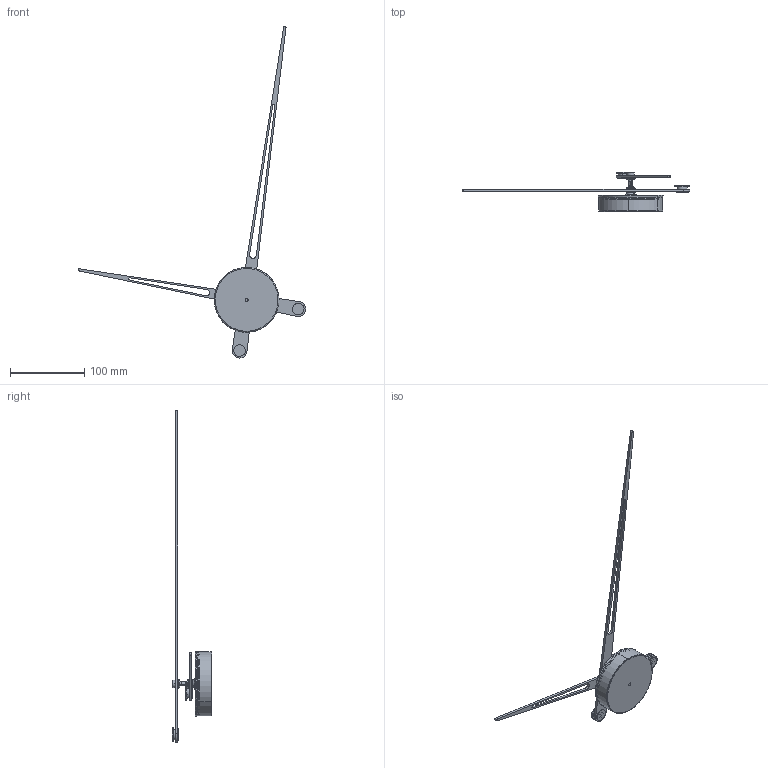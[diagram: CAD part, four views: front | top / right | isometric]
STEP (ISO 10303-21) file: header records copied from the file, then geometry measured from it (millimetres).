
FILE_DESCRIPTION (( 'STEP AP214' ), '1' );
FILE_NAME ('Axioma_g_74.STEP', '2021-09-06T08:15:04', ( '' ), ( '' ), 'SwSTEP 2.0', 'SolidWorks 2016', '' );
FILE_SCHEMA (( 'AUTOMOTIVE_DESIGN' ));
Length unit declared in the file: millimetre
Products named in the file (18): Caja_acero_inox; MECANISMO_SINGULAR; Pieza_caja_superior; Tuerca 1.5; tuerca_7.3_1.5; Aguja_horaria_calada_nogal_74; Cierre_contrapeso; Aguja_minutera_calada_nogal_74; Contrapeso_pequeño; Embellecedor; Pieza2; aguja_minutera_calada_nogal_74; Axioma_g_74; aguja_horaria_calada_nogal_74; Arandela_2; Inserto horaria; Pieza_caja_inferior; Esparrago
Assembly tree (20 placements, depth 3):
  Axioma_g_74
    Caja_acero_inox
      MECANISMO_SINGULAR
      Pieza_caja_inferior
      Pieza_caja_superior
      Pieza2
    Aguja_horaria_calada_nogal_74
      aguja_horaria_calada_nogal_74
      Inserto horaria
      tuerca_7.3_1.5
      Arandela_2
      Contrapeso_pequeño
      Cierre_contrapeso
    Aguja_minutera_calada_nogal_74
      aguja_minutera_calada_nogal_74
      Contrapeso_pequeño
      Cierre_contrapeso
      Arandela_2
      Embellecedor
      Esparrago
      Tuerca 1.5
Bounding box: 305.84 x 53.38 x 446.73 mm (x, y, z)
Volume: 70091.3 mm3; surface area: 83202.8 mm2
Topology: 17 solids, 17 shells, 389 faces, 940 edges, 611 vertices
Faces by surface type: plane 128, cylinder 117, bspline 106, torus 26, cone 10, sphere 2
Entity records: 13532 total; most frequent: CARTESIAN_POINT 4629, ORIENTED_EDGE 1788, DIRECTION 1516, EDGE_CURVE 894, VERTEX_POINT 581, AXIS2_PLACEMENT_3D 548, VECTOR 420, LINE 420
